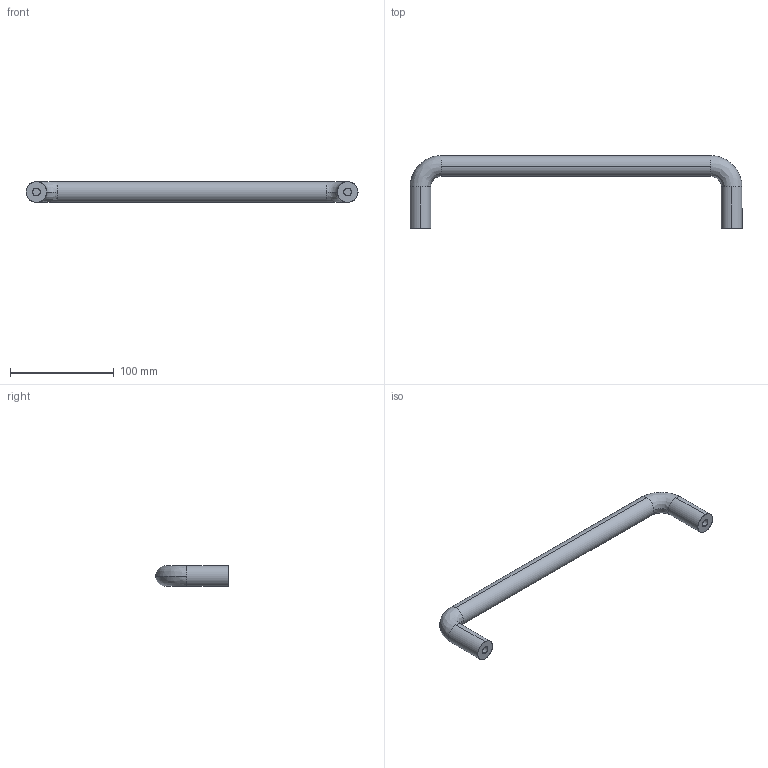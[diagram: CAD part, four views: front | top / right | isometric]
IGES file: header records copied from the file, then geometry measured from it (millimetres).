
Start section: SolidWorks IGES file using analytic representation for surfaces
Global section: file name: D:\由鑫國際內部資料\內部資料\3D圖檔\MS-749\P=300.IGS,15HSolidWorks; native system: 2008; preprocessor: SolidWorks 2008; author: Administrator; date: 091201.113358; units: millimetre
Bounding box: 320 x 70 x 20 mm (x, y, z)
Surface area: 26649.1 mm2 (no closed solid volume)
Topology: 0 solids, 0 shells, 18 faces, 264 edges, 264 vertices
Faces by surface type: revolution 10, bspline 8
